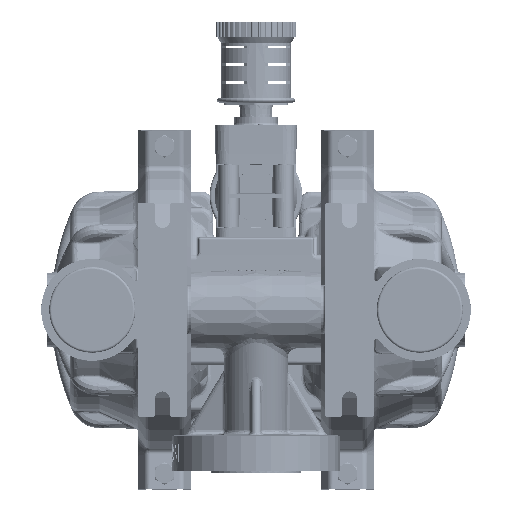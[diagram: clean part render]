
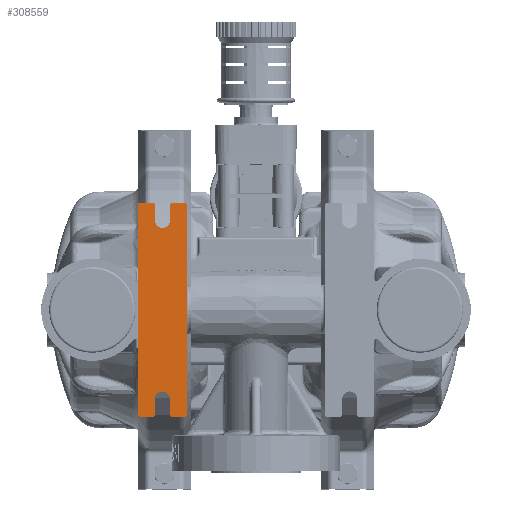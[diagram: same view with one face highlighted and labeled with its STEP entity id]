
A CAD part, front view. The second image highlights one B-rep face of the part: STEP entity #308559.
In plain terms, the highlighted planar face has unit normal (0, -1, 0).
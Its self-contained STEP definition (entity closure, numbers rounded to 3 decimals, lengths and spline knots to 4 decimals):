
#245055=CARTESIAN_POINT('',(-2.942,-6.394,2.66));
#245056=DIRECTION('',(0.,-1.,0.));
#245057=DIRECTION('',(0.,0.,1.));
#245058=AXIS2_PLACEMENT_3D('',#245055,#245056,#245057);
#245060=DIRECTION('',(1.,0.,0.));
#245061=VECTOR('',#245060,0.315);
#245062=CARTESIAN_POINT('',(-2.942,-6.394,2.72));
#245063=LINE('',#245062,#245061);
#245064=CARTESIAN_POINT('',(-2.627,-6.394,2.66));
#245065=DIRECTION('',(0.,-1.,0.));
#245066=DIRECTION('',(1.,0.,0.));
#245067=AXIS2_PLACEMENT_3D('',#245064,#245065,#245066);
#245069=DIRECTION('',(0.,0.,-1.));
#245070=VECTOR('',#245069,0.395);
#245071=CARTESIAN_POINT('',(-2.567,-6.394,2.66));
#245072=LINE('',#245071,#245070);
#245073=CARTESIAN_POINT('',(-2.377,-6.394,2.265));
#245074=DIRECTION('',(0.,-1.,0.));
#245075=DIRECTION('',(-1.,0.,0.));
#245076=AXIS2_PLACEMENT_3D('',#245073,#245074,#245075);
#245078=DIRECTION('',(0.,0.,1.));
#245079=VECTOR('',#245078,0.395);
#245080=CARTESIAN_POINT('',(-2.187,-6.394,2.265));
#245081=LINE('',#245080,#245079);
#245082=CARTESIAN_POINT('',(-2.127,-6.394,2.66));
#245083=DIRECTION('',(0.,-1.,0.));
#245084=DIRECTION('',(0.,0.,1.));
#245085=AXIS2_PLACEMENT_3D('',#245082,#245083,#245084);
#245087=DIRECTION('',(1.,0.,0.));
#245088=VECTOR('',#245087,0.315);
#245089=CARTESIAN_POINT('',(-2.127,-6.394,2.72));
#245090=LINE('',#245089,#245088);
#245091=CARTESIAN_POINT('',(-1.812,-6.394,2.66));
#245092=DIRECTION('',(0.,-1.,0.));
#245093=DIRECTION('',(1.,0.,0.));
#245094=AXIS2_PLACEMENT_3D('',#245091,#245092,#245093);
#245096=DIRECTION('',(0.,0.,-1.));
#245097=VECTOR('',#245096,5.32);
#245098=CARTESIAN_POINT('',(-1.752,-6.394,2.66));
#245099=LINE('',#245098,#245097);
#245100=CARTESIAN_POINT('',(-1.812,-6.394,-2.66));
#245101=DIRECTION('',(0.,-1.,0.));
#245102=DIRECTION('',(0.,0.,-1.));
#245103=AXIS2_PLACEMENT_3D('',#245100,#245101,#245102);
#245105=DIRECTION('',(-1.,0.,0.));
#245106=VECTOR('',#245105,0.315);
#245107=CARTESIAN_POINT('',(-1.812,-6.394,-2.72));
#245108=LINE('',#245107,#245106);
#245109=CARTESIAN_POINT('',(-2.127,-6.394,-2.66));
#245110=DIRECTION('',(0.,-1.,0.));
#245111=DIRECTION('',(-1.,0.,0.));
#245112=AXIS2_PLACEMENT_3D('',#245109,#245110,#245111);
#245114=DIRECTION('',(0.,0.,1.));
#245115=VECTOR('',#245114,0.395);
#245116=CARTESIAN_POINT('',(-2.187,-6.394,-2.66));
#245117=LINE('',#245116,#245115);
#245118=CARTESIAN_POINT('',(-2.377,-6.394,-2.265));
#245119=DIRECTION('',(0.,-1.,0.));
#245120=DIRECTION('',(1.,0.,0.));
#245121=AXIS2_PLACEMENT_3D('',#245118,#245119,#245120);
#245123=DIRECTION('',(0.,0.,-1.));
#245124=VECTOR('',#245123,0.395);
#245125=CARTESIAN_POINT('',(-2.567,-6.394,-2.265));
#245126=LINE('',#245125,#245124);
#245127=CARTESIAN_POINT('',(-2.627,-6.394,-2.66));
#245128=DIRECTION('',(0.,-1.,0.));
#245129=DIRECTION('',(0.,0.,-1.));
#245130=AXIS2_PLACEMENT_3D('',#245127,#245128,#245129);
#245132=DIRECTION('',(-1.,0.,0.));
#245133=VECTOR('',#245132,0.315);
#245134=CARTESIAN_POINT('',(-2.627,-6.394,-2.72));
#245135=LINE('',#245134,#245133);
#245136=CARTESIAN_POINT('',(-2.942,-6.394,-2.66));
#245137=DIRECTION('',(0.,-1.,0.));
#245138=DIRECTION('',(-1.,0.,0.));
#245139=AXIS2_PLACEMENT_3D('',#245136,#245137,#245138);
#245141=DIRECTION('',(0.,0.,1.));
#245142=VECTOR('',#245141,5.32);
#245143=CARTESIAN_POINT('',(-3.002,-6.394,-2.66));
#245144=LINE('',#245143,#245142);
#296152=CARTESIAN_POINT('',(-2.567,-6.394,2.265));
#296153=CARTESIAN_POINT('',(-2.187,-6.394,2.265));
#296154=VERTEX_POINT('',#296152);
#296155=VERTEX_POINT('',#296153);
#296156=CARTESIAN_POINT('',(-2.187,-6.394,-2.265));
#296157=CARTESIAN_POINT('',(-2.567,-6.394,-2.265));
#296158=VERTEX_POINT('',#296156);
#296159=VERTEX_POINT('',#296157);
#298539=CARTESIAN_POINT('',(-2.942,-6.394,2.72));
#298540=CARTESIAN_POINT('',(-3.002,-6.394,2.66));
#298541=VERTEX_POINT('',#298539);
#298542=VERTEX_POINT('',#298540);
#298553=CARTESIAN_POINT('',(-2.567,-6.394,2.66));
#298554=CARTESIAN_POINT('',(-2.627,-6.394,2.72));
#298555=VERTEX_POINT('',#298553);
#298556=VERTEX_POINT('',#298554);
#298571=CARTESIAN_POINT('',(-1.752,-6.394,2.66));
#298572=CARTESIAN_POINT('',(-1.812,-6.394,2.72));
#298573=VERTEX_POINT('',#298571);
#298574=VERTEX_POINT('',#298572);
#298583=CARTESIAN_POINT('',(-2.127,-6.394,2.72));
#298584=CARTESIAN_POINT('',(-2.187,-6.394,2.66));
#298585=VERTEX_POINT('',#298583);
#298586=VERTEX_POINT('',#298584);
#298587=CARTESIAN_POINT('',(-3.002,-6.394,-2.66));
#298588=CARTESIAN_POINT('',(-2.942,-6.394,-2.72));
#298589=VERTEX_POINT('',#298587);
#298590=VERTEX_POINT('',#298588);
#298601=CARTESIAN_POINT('',(-2.627,-6.394,-2.72));
#298602=CARTESIAN_POINT('',(-2.567,-6.394,-2.66));
#298603=VERTEX_POINT('',#298601);
#298604=VERTEX_POINT('',#298602);
#298619=CARTESIAN_POINT('',(-2.187,-6.394,-2.66));
#298620=CARTESIAN_POINT('',(-2.127,-6.394,-2.72));
#298621=VERTEX_POINT('',#298619);
#298622=VERTEX_POINT('',#298620);
#298629=CARTESIAN_POINT('',(-1.812,-6.394,-2.72));
#298630=CARTESIAN_POINT('',(-1.752,-6.394,-2.66));
#298631=VERTEX_POINT('',#298629);
#298632=VERTEX_POINT('',#298630);
#308514=CARTESIAN_POINT('',(-2.444,-6.394,0.));
#308515=DIRECTION('',(0.,1.,0.));
#308516=DIRECTION('',(1.,0.,0.));
#308517=AXIS2_PLACEMENT_3D('',#308514,#308515,#308516);
#308518=PLANE('',#308517);
#308520=ORIENTED_EDGE('',*,*,#308519,.F.);
#308522=ORIENTED_EDGE('',*,*,#308521,.T.);
#308524=ORIENTED_EDGE('',*,*,#308523,.F.);
#308526=ORIENTED_EDGE('',*,*,#308525,.T.);
#308528=ORIENTED_EDGE('',*,*,#308527,.T.);
#308530=ORIENTED_EDGE('',*,*,#308529,.T.);
#308532=ORIENTED_EDGE('',*,*,#308531,.F.);
#308534=ORIENTED_EDGE('',*,*,#308533,.T.);
#308536=ORIENTED_EDGE('',*,*,#308535,.F.);
#308538=ORIENTED_EDGE('',*,*,#308537,.T.);
#308540=ORIENTED_EDGE('',*,*,#308539,.F.);
#308542=ORIENTED_EDGE('',*,*,#308541,.T.);
#308544=ORIENTED_EDGE('',*,*,#308543,.F.);
#308546=ORIENTED_EDGE('',*,*,#308545,.T.);
#308548=ORIENTED_EDGE('',*,*,#308547,.T.);
#308550=ORIENTED_EDGE('',*,*,#308549,.T.);
#308552=ORIENTED_EDGE('',*,*,#308551,.F.);
#308554=ORIENTED_EDGE('',*,*,#308553,.T.);
#308555=ORIENTED_EDGE('',*,*,#308505,.F.);
#308556=ORIENTED_EDGE('',*,*,#305300,.T.);
#308557=EDGE_LOOP('',(#308520,#308522,#308524,#308526,#308528,#308530,#308532,
#308534,#308536,#308538,#308540,#308542,#308544,#308546,#308548,#308550,#308552,
#308554,#308555,#308556));
#308558=FACE_OUTER_BOUND('',#308557,.F.);
#308559=ADVANCED_FACE('',(#308558),#308518,.F.);
#245059=CIRCLE('',#245058,0.06);
#245068=CIRCLE('',#245067,0.06);
#245077=CIRCLE('',#245076,0.19);
#245086=CIRCLE('',#245085,0.06);
#245095=CIRCLE('',#245094,0.06);
#245104=CIRCLE('',#245103,0.06);
#245113=CIRCLE('',#245112,0.06);
#245122=CIRCLE('',#245121,0.19);
#245131=CIRCLE('',#245130,0.06);
#245140=CIRCLE('',#245139,0.06);
#305300=EDGE_CURVE('',#298589,#298542,#245144,.T.);
#308505=EDGE_CURVE('',#298589,#298590,#245140,.T.);
#308519=EDGE_CURVE('',#298541,#298542,#245059,.T.);
#308521=EDGE_CURVE('',#298541,#298556,#245063,.T.);
#308523=EDGE_CURVE('',#298555,#298556,#245068,.T.);
#308525=EDGE_CURVE('',#298555,#296154,#245072,.T.);
#308527=EDGE_CURVE('',#296154,#296155,#245077,.T.);
#308529=EDGE_CURVE('',#296155,#298586,#245081,.T.);
#308531=EDGE_CURVE('',#298585,#298586,#245086,.T.);
#308533=EDGE_CURVE('',#298585,#298574,#245090,.T.);
#308535=EDGE_CURVE('',#298573,#298574,#245095,.T.);
#308537=EDGE_CURVE('',#298573,#298632,#245099,.T.);
#308539=EDGE_CURVE('',#298631,#298632,#245104,.T.);
#308541=EDGE_CURVE('',#298631,#298622,#245108,.T.);
#308543=EDGE_CURVE('',#298621,#298622,#245113,.T.);
#308545=EDGE_CURVE('',#298621,#296158,#245117,.T.);
#308547=EDGE_CURVE('',#296158,#296159,#245122,.T.);
#308549=EDGE_CURVE('',#296159,#298604,#245126,.T.);
#308551=EDGE_CURVE('',#298603,#298604,#245131,.T.);
#308553=EDGE_CURVE('',#298603,#298590,#245135,.T.);
